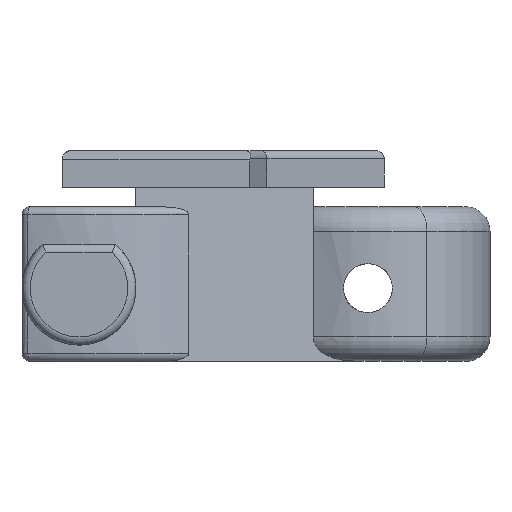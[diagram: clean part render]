
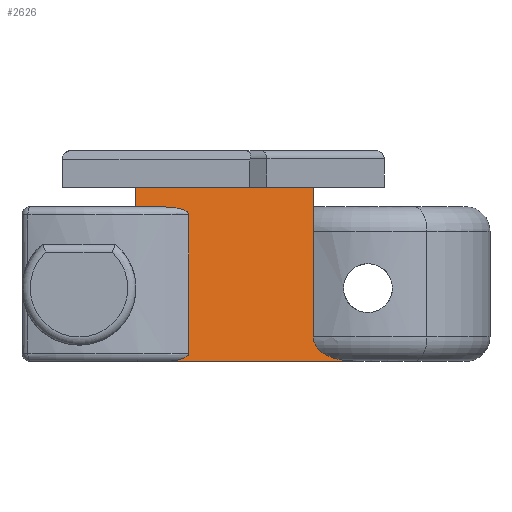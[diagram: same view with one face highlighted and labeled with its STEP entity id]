
A CAD part, front view. The second image highlights one B-rep face of the part: STEP entity #2626.
In plain terms, the highlighted planar face has unit normal (0.259, -0.966, 0).
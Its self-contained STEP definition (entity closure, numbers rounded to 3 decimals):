
#86=PLANE('',#2889);
#102=B_SPLINE_CURVE_WITH_KNOTS('',3,(#3816,#3817,#3818,#3819,#3820,#3821,
#3822,#3823,#3824,#3825),.UNSPECIFIED.,.F.,.F.,(4,2,2,2,4),(2.412,
2.427,2.446,2.524,2.774),
 .UNSPECIFIED.);
#109=B_SPLINE_CURVE_WITH_KNOTS('',3,(#3909,#3910,#3911,#3912,#3913,#3914,
#3915,#3916,#3917,#3918),.UNSPECIFIED.,.F.,.F.,(4,2,2,2,4),(0.442,
0.692,0.77,0.789,0.804),
 .UNSPECIFIED.);
#116=B_SPLINE_CURVE_WITH_KNOTS('',3,(#4421,#4422,#4423,#4424,#4425,#4426,
#4427,#4428,#4429,#4430,#4431,#4432,#4433,#4434),.UNSPECIFIED.,.F.,.F.,
(4,2,2,2,2,2,4),(0.395,0.686,0.839,
0.912,0.985,1.041,1.092),
 .UNSPECIFIED.);
#283=FACE_OUTER_BOUND('',#436,.T.);
#436=EDGE_LOOP('',(#2386,#2387,#2388,#2389,#2390,#2391,#2392,#2393,#2394,
#2395,#2396));
#499=LINE('',#3790,#756);
#512=LINE('',#3872,#769);
#670=LINE('',#4551,#927);
#716=LINE('',#4683,#973);
#728=LINE('',#4709,#985);
#732=LINE('',#4718,#989);
#734=LINE('',#4721,#991);
#735=LINE('',#4724,#992);
#756=VECTOR('',#2964,10.);
#769=VECTOR('',#3007,10.);
#927=VECTOR('',#3467,10.);
#973=VECTOR('',#3557,10.);
#985=VECTOR('',#3595,10.);
#989=VECTOR('',#3601,10.);
#991=VECTOR('',#3605,10.);
#992=VECTOR('',#3610,10.);
#1073=VERTEX_POINT('',#3787);
#1074=VERTEX_POINT('',#3789);
#1085=VERTEX_POINT('',#3815);
#1094=VERTEX_POINT('',#3871);
#1098=VERTEX_POINT('',#3908);
#1208=VERTEX_POINT('',#4310);
#1233=VERTEX_POINT('',#4419);
#1241=VERTEX_POINT('',#4497);
#1261=VERTEX_POINT('',#4661);
#1272=VERTEX_POINT('',#4711);
#1275=VERTEX_POINT('',#4716);
#1316=EDGE_CURVE('',#1074,#1073,#499,.T.);
#1329=EDGE_CURVE('',#1074,#1085,#102,.F.);
#1343=EDGE_CURVE('',#1085,#1094,#512,.T.);
#1349=EDGE_CURVE('',#1094,#1098,#109,.F.);
#1563=EDGE_CURVE('',#1233,#1073,#116,.F.);
#1580=EDGE_CURVE('',#1233,#1241,#670,.T.);
#1630=EDGE_CURVE('',#1261,#1208,#716,.T.);
#1642=EDGE_CURVE('',#1241,#1261,#728,.T.);
#1646=EDGE_CURVE('',#1275,#1272,#732,.T.);
#1648=EDGE_CURVE('',#1208,#1272,#734,.T.);
#1649=EDGE_CURVE('',#1098,#1275,#735,.T.);
#2386=ORIENTED_EDGE('',*,*,#1316,.T.);
#2387=ORIENTED_EDGE('',*,*,#1563,.F.);
#2388=ORIENTED_EDGE('',*,*,#1580,.T.);
#2389=ORIENTED_EDGE('',*,*,#1642,.T.);
#2390=ORIENTED_EDGE('',*,*,#1630,.T.);
#2391=ORIENTED_EDGE('',*,*,#1648,.T.);
#2392=ORIENTED_EDGE('',*,*,#1646,.F.);
#2393=ORIENTED_EDGE('',*,*,#1649,.F.);
#2394=ORIENTED_EDGE('',*,*,#1349,.F.);
#2395=ORIENTED_EDGE('',*,*,#1343,.F.);
#2396=ORIENTED_EDGE('',*,*,#1329,.F.);
#2626=ADVANCED_FACE('',(#283),#86,.T.);
#2889=AXIS2_PLACEMENT_3D('',#4736,#3626,#3627);
#2964=DIRECTION('',(0.966,0.259,0.));
#3007=DIRECTION('',(0.,0.,1.));
#3467=DIRECTION('',(0.,0.,1.));
#3557=DIRECTION('',(-0.966,-0.259,0.));
#3595=DIRECTION('',(0.,0.,1.));
#3601=DIRECTION('',(0.,0.,1.));
#3605=DIRECTION('',(-0.966,-0.259,0.));
#3610=DIRECTION('',(-0.966,-0.259,0.));
#3626=DIRECTION('center_axis',(0.259,-0.966,0.));
#3627=DIRECTION('ref_axis',(0.,0.,-1.));
#3787=CARTESIAN_POINT('',(12.87,-12.97,17.1));
#3789=CARTESIAN_POINT('',(-11.633,-19.536,17.1));
#3790=CARTESIAN_POINT('',(4.534,-15.204,17.1));
#3815=CARTESIAN_POINT('',(-8.268,-18.634,18.1));
#3816=CARTESIAN_POINT('Ctrl Pts',(-8.268,-18.634,18.1));
#3817=CARTESIAN_POINT('Ctrl Pts',(-8.268,-18.634,18.051));
#3818=CARTESIAN_POINT('Ctrl Pts',(-8.28,-18.637,17.994));
#3819=CARTESIAN_POINT('Ctrl Pts',(-8.323,-18.649,17.891));
#3820=CARTESIAN_POINT('Ctrl Pts',(-8.366,-18.66,17.829));
#3821=CARTESIAN_POINT('Ctrl Pts',(-8.582,-18.718,17.594));
#3822=CARTESIAN_POINT('Ctrl Pts',(-8.86,-18.793,17.473));
#3823=CARTESIAN_POINT('Ctrl Pts',(-9.865,-19.062,17.137));
#3824=CARTESIAN_POINT('Ctrl Pts',(-10.829,-19.32,17.1));
#3825=CARTESIAN_POINT('Ctrl Pts',(-11.633,-19.536,17.1));
#3871=CARTESIAN_POINT('',(-8.268,-18.634,35.1));
#3872=CARTESIAN_POINT('',(-8.268,-18.634,17.1));
#3908=CARTESIAN_POINT('',(-11.633,-19.536,36.1));
#3909=CARTESIAN_POINT('Ctrl Pts',(-11.633,-19.536,36.1));
#3910=CARTESIAN_POINT('Ctrl Pts',(-10.829,-19.32,36.1));
#3911=CARTESIAN_POINT('Ctrl Pts',(-9.865,-19.062,36.063));
#3912=CARTESIAN_POINT('Ctrl Pts',(-8.86,-18.793,35.727));
#3913=CARTESIAN_POINT('Ctrl Pts',(-8.582,-18.718,35.606));
#3914=CARTESIAN_POINT('Ctrl Pts',(-8.366,-18.66,35.371));
#3915=CARTESIAN_POINT('Ctrl Pts',(-8.323,-18.649,35.309));
#3916=CARTESIAN_POINT('Ctrl Pts',(-8.28,-18.637,35.206));
#3917=CARTESIAN_POINT('Ctrl Pts',(-8.268,-18.634,35.149));
#3918=CARTESIAN_POINT('Ctrl Pts',(-8.268,-18.634,35.1));
#4310=CARTESIAN_POINT('',(-13.891,-20.141,38.5));
#4419=CARTESIAN_POINT('',(7.05,-14.53,20.1));
#4421=CARTESIAN_POINT('Ctrl Pts',(12.87,-12.97,17.1));
#4422=CARTESIAN_POINT('Ctrl Pts',(11.932,-13.222,17.1));
#4423=CARTESIAN_POINT('Ctrl Pts',(10.808,-13.523,17.164));
#4424=CARTESIAN_POINT('Ctrl Pts',(9.418,-13.895,17.515));
#4425=CARTESIAN_POINT('Ctrl Pts',(8.863,-14.044,17.723));
#4426=CARTESIAN_POINT('Ctrl Pts',(8.234,-14.212,18.101));
#4427=CARTESIAN_POINT('Ctrl Pts',(8.022,-14.269,18.255));
#4428=CARTESIAN_POINT('Ctrl Pts',(7.644,-14.37,18.611));
#4429=CARTESIAN_POINT('Ctrl Pts',(7.479,-14.415,18.814));
#4430=CARTESIAN_POINT('Ctrl Pts',(7.262,-14.473,19.18));
#4431=CARTESIAN_POINT('Ctrl Pts',(7.173,-14.497,19.383));
#4432=CARTESIAN_POINT('Ctrl Pts',(7.078,-14.522,19.726));
#4433=CARTESIAN_POINT('Ctrl Pts',(7.05,-14.53,19.929));
#4434=CARTESIAN_POINT('Ctrl Pts',(7.05,-14.53,20.1));
#4497=CARTESIAN_POINT('',(7.05,-14.53,33.1));
#4551=CARTESIAN_POINT('',(7.05,-14.53,17.1));
#4661=CARTESIAN_POINT('',(7.05,-14.53,38.5));
#4683=CARTESIAN_POINT('',(-14.75,-20.371,38.5));
#4709=CARTESIAN_POINT('',(7.05,-14.53,17.1));
#4711=CARTESIAN_POINT('',(-14.75,-20.371,38.5));
#4716=CARTESIAN_POINT('',(-14.75,-20.371,36.1));
#4718=CARTESIAN_POINT('',(-14.75,-20.371,36.1));
#4721=CARTESIAN_POINT('',(-14.75,-20.371,38.5));
#4724=CARTESIAN_POINT('',(4.534,-15.204,36.1));
#4736=CARTESIAN_POINT('Origin',(7.05,-14.53,17.1));
